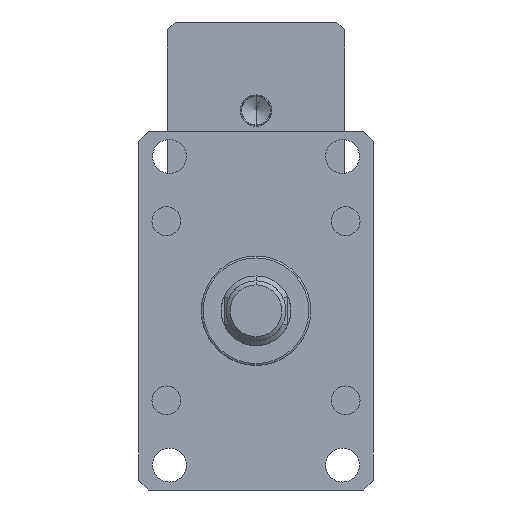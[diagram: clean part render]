
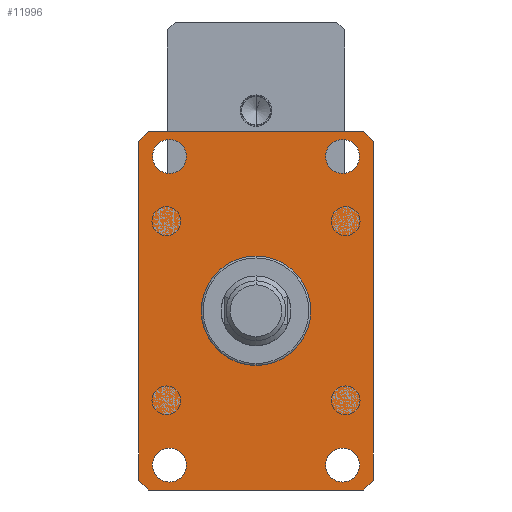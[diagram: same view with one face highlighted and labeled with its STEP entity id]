
A CAD part, front view. The second image highlights one B-rep face of the part: STEP entity #11996.
In plain terms, the highlighted planar face has unit normal (0, -1, 0).
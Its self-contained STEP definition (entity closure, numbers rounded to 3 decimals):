
#134 = VERTEX_POINT ( 'NONE', #11940 ) ;
#298 = VECTOR ( 'NONE', #7155, 1000. ) ;
#309 = LINE ( 'NONE', #2871, #4898 ) ;
#333 = AXIS2_PLACEMENT_3D ( 'NONE', #499, #7340, #1457 ) ;
#499 = CARTESIAN_POINT ( 'NONE',  ( 43.5, -55., -77.5 ) ) ;
#508 = CARTESIAN_POINT ( 'NONE',  ( 43.5, -55., 77.5 ) ) ;
#836 = CARTESIAN_POINT ( 'NONE',  ( -54., -55., -90. ) ) ;
#1052 = CARTESIAN_POINT ( 'NONE',  ( -43.5, -55., 77.5 ) ) ;
#1097 = EDGE_CURVE ( 'NONE', #11433, #2408, #11636, .T. ) ;
#1182 = EDGE_LOOP ( 'NONE', ( #10085, #3190, #5065, #8266, #5171, #10581, #5799, #5356 ) ) ;
#1183 = FACE_BOUND ( 'NONE', #4106, .T. ) ;
#1211 = VECTOR ( 'NONE', #2187, 1000. ) ;
#1297 = CARTESIAN_POINT ( 'NONE',  ( 54., -55., 90. ) ) ;
#1457 = DIRECTION ( 'NONE',  ( 0., 0., 1. ) ) ;
#1471 = DIRECTION ( 'NONE',  ( 0., 0., -1. ) ) ;
#1498 = CIRCLE ( 'NONE', #8177, 8.5 ) ;
#1558 = CARTESIAN_POINT ( 'NONE',  ( 54., -55., -90. ) ) ;
#1601 = CARTESIAN_POINT ( 'NONE',  ( 59., -55., -85. ) ) ;
#2023 = DIRECTION ( 'NONE',  ( 0., 0., -1. ) ) ;
#2047 = LINE ( 'NONE', #10399, #12232 ) ;
#2124 = EDGE_CURVE ( 'NONE', #2408, #11433, #6245, .T. ) ;
#2162 = DIRECTION ( 'NONE',  ( 0., 0., 1. ) ) ;
#2187 = DIRECTION ( 'NONE',  ( -0.707, 0., -0.707 ) ) ;
#2314 = AXIS2_PLACEMENT_3D ( 'NONE', #508, #7352, #1471 ) ;
#2408 = VERTEX_POINT ( 'NONE', #12335 ) ;
#2609 = LINE ( 'NONE', #9525, #4623 ) ;
#2731 = VERTEX_POINT ( 'NONE', #11845 ) ;
#2741 = DIRECTION ( 'NONE',  ( 0., 1., 0. ) ) ;
#2871 = CARTESIAN_POINT ( 'NONE',  ( -59., -55., -85. ) ) ;
#3001 = AXIS2_PLACEMENT_3D ( 'NONE', #1052, #7909, #2023 ) ;
#3046 = CARTESIAN_POINT ( 'NONE',  ( -43.5, -55., 69. ) ) ;
#3190 = ORIENTED_EDGE ( 'NONE', *, *, #5274, .T. ) ;
#3215 = LINE ( 'NONE', #7037, #1211 ) ;
#3494 = VERTEX_POINT ( 'NONE', #1601 ) ;
#3886 = DIRECTION ( 'NONE',  ( 0.707, 0., -0.707 ) ) ;
#4004 = ORIENTED_EDGE ( 'NONE', *, *, #2124, .F. ) ;
#4078 = CARTESIAN_POINT ( 'NONE',  ( 59., -55., 85. ) ) ;
#4106 = EDGE_LOOP ( 'NONE', ( #5444, #10193 ) ) ;
#4121 = VECTOR ( 'NONE', #9984, 1000. ) ;
#4123 = CIRCLE ( 'NONE', #7364, 8.5 ) ;
#4177 = DIRECTION ( 'NONE',  ( 0., 1., 0. ) ) ;
#4327 = CARTESIAN_POINT ( 'NONE',  ( -43.5, -55., 77.5 ) ) ;
#4436 = CARTESIAN_POINT ( 'NONE',  ( 43.5, -55., 77.5 ) ) ;
#4623 = VECTOR ( 'NONE', #11531, 1000. ) ;
#4741 = VECTOR ( 'NONE', #12712, 1000. ) ;
#4898 = VECTOR ( 'NONE', #3886, 1000. ) ;
#5065 = ORIENTED_EDGE ( 'NONE', *, *, #10468, .T. ) ;
#5165 = EDGE_LOOP ( 'NONE', ( #7102, #8887 ) ) ;
#5166 = FACE_BOUND ( 'NONE', #12626, .T. ) ;
#5171 = ORIENTED_EDGE ( 'NONE', *, *, #7867, .T. ) ;
#5195 = LINE ( 'NONE', #1297, #298 ) ;
#5274 = EDGE_CURVE ( 'NONE', #10282, #3494, #2047, .T. ) ;
#5294 = DIRECTION ( 'NONE',  ( 0., 0., -1. ) ) ;
#5308 = CARTESIAN_POINT ( 'NONE',  ( -43.5, -55., -77.5 ) ) ;
#5351 = LINE ( 'NONE', #8743, #4741 ) ;
#5356 = ORIENTED_EDGE ( 'NONE', *, *, #8773, .T. ) ;
#5403 = DIRECTION ( 'NONE',  ( 0., 0., -1. ) ) ;
#5444 = ORIENTED_EDGE ( 'NONE', *, *, #5912, .T. ) ;
#5468 = FACE_BOUND ( 'NONE', #5165, .T. ) ;
#5495 = CARTESIAN_POINT ( 'NONE',  ( -59., -55., 85. ) ) ;
#5541 = AXIS2_PLACEMENT_3D ( 'NONE', #4327, #11244, #5294 ) ;
#5799 = ORIENTED_EDGE ( 'NONE', *, *, #10029, .T. ) ;
#5912 = EDGE_CURVE ( 'NONE', #10202, #10453, #8033, .T. ) ;
#6004 = CARTESIAN_POINT ( 'NONE',  ( 43.5, -55., -86. ) ) ;
#6171 = AXIS2_PLACEMENT_3D ( 'NONE', #4436, #11341, #5403 ) ;
#6245 = CIRCLE ( 'NONE', #3001, 8.5 ) ;
#6302 = DIRECTION ( 'NONE',  ( 0., 0., 1. ) ) ;
#6321 = AXIS2_PLACEMENT_3D ( 'NONE', #5308, #12225, #6302 ) ;
#6412 = VERTEX_POINT ( 'NONE', #11624 ) ;
#6470 = DIRECTION ( 'NONE',  ( 0.707, 0., 0.707 ) ) ;
#6479 = CIRCLE ( 'NONE', #6321, 8.5 ) ;
#6635 = AXIS2_PLACEMENT_3D ( 'NONE', #12000, #8043, #2162 ) ;
#6709 = LINE ( 'NONE', #4078, #4121 ) ;
#6879 = CARTESIAN_POINT ( 'NONE',  ( -54., -55., -90. ) ) ;
#6993 = VERTEX_POINT ( 'NONE', #7937 ) ;
#7037 = CARTESIAN_POINT ( 'NONE',  ( -59., -55., 85. ) ) ;
#7102 = ORIENTED_EDGE ( 'NONE', *, *, #11268, .T. ) ;
#7137 = EDGE_CURVE ( 'NONE', #134, #9346, #6479, .T. ) ;
#7155 = DIRECTION ( 'NONE',  ( -0.707, 0., 0.707 ) ) ;
#7173 = CARTESIAN_POINT ( 'NONE',  ( -43.5, -55., -69. ) ) ;
#7340 = DIRECTION ( 'NONE',  ( 0., 1., 0. ) ) ;
#7352 = DIRECTION ( 'NONE',  ( 0., -1., 0. ) ) ;
#7364 = AXIS2_PLACEMENT_3D ( 'NONE', #8644, #2741, #9622 ) ;
#7377 = VERTEX_POINT ( 'NONE', #10819 ) ;
#7776 = FACE_OUTER_BOUND ( 'NONE', #1182, .T. ) ;
#7867 = EDGE_CURVE ( 'NONE', #2731, #8639, #2609, .T. ) ;
#7909 = DIRECTION ( 'NONE',  ( 0., -1., 0. ) ) ;
#7937 = CARTESIAN_POINT ( 'NONE',  ( 59., -55., 85. ) ) ;
#7985 = CARTESIAN_POINT ( 'NONE',  ( -54., -55., 90. ) ) ;
#8033 = CIRCLE ( 'NONE', #333, 8.5 ) ;
#8043 = DIRECTION ( 'NONE',  ( 0., 1., 0. ) ) ;
#8175 = CARTESIAN_POINT ( 'NONE',  ( 43.5, -55., -69. ) ) ;
#8177 = AXIS2_PLACEMENT_3D ( 'NONE', #10072, #4177, #11079 ) ;
#8266 = ORIENTED_EDGE ( 'NONE', *, *, #10199, .T. ) ;
#8604 = VERTEX_POINT ( 'NONE', #9896 ) ;
#8639 = VERTEX_POINT ( 'NONE', #7985 ) ;
#8640 = EDGE_CURVE ( 'NONE', #7377, #6412, #11714, .T. ) ;
#8644 = CARTESIAN_POINT ( 'NONE',  ( -43.5, -55., -77.5 ) ) ;
#8703 = VERTEX_POINT ( 'NONE', #5495 ) ;
#8743 = CARTESIAN_POINT ( 'NONE',  ( -59., -55., 85. ) ) ;
#8773 = EDGE_CURVE ( 'NONE', #8604, #10002, #309, .T. ) ;
#8887 = ORIENTED_EDGE ( 'NONE', *, *, #7137, .T. ) ;
#9006 = PLANE ( 'NONE',  #6635 ) ;
#9346 = VERTEX_POINT ( 'NONE', #7173 ) ;
#9525 = CARTESIAN_POINT ( 'NONE',  ( -54., -55., 90. ) ) ;
#9622 = DIRECTION ( 'NONE',  ( 0., 0., 1. ) ) ;
#9770 = EDGE_CURVE ( 'NONE', #6412, #7377, #10482, .T. ) ;
#9886 = DIRECTION ( 'NONE',  ( 1., 0., 0. ) ) ;
#9896 = CARTESIAN_POINT ( 'NONE',  ( -59., -55., -85. ) ) ;
#9984 = DIRECTION ( 'NONE',  ( 0., 0., 1. ) ) ;
#10002 = VERTEX_POINT ( 'NONE', #836 ) ;
#10029 = EDGE_CURVE ( 'NONE', #8703, #8604, #5351, .T. ) ;
#10072 = CARTESIAN_POINT ( 'NONE',  ( 43.5, -55., -77.5 ) ) ;
#10085 = ORIENTED_EDGE ( 'NONE', *, *, #11908, .T. ) ;
#10158 = EDGE_CURVE ( 'NONE', #8639, #8703, #3215, .T. ) ;
#10193 = ORIENTED_EDGE ( 'NONE', *, *, #10518, .T. ) ;
#10196 = ORIENTED_EDGE ( 'NONE', *, *, #9770, .F. ) ;
#10199 = EDGE_CURVE ( 'NONE', #6993, #2731, #5195, .T. ) ;
#10202 = VERTEX_POINT ( 'NONE', #8175 ) ;
#10282 = VERTEX_POINT ( 'NONE', #1558 ) ;
#10399 = CARTESIAN_POINT ( 'NONE',  ( 54., -55., -90. ) ) ;
#10427 = FACE_BOUND ( 'NONE', #12070, .T. ) ;
#10453 = VERTEX_POINT ( 'NONE', #6004 ) ;
#10468 = EDGE_CURVE ( 'NONE', #3494, #6993, #6709, .T. ) ;
#10482 = CIRCLE ( 'NONE', #2314, 8.5 ) ;
#10518 = EDGE_CURVE ( 'NONE', #10453, #10202, #1498, .T. ) ;
#10581 = ORIENTED_EDGE ( 'NONE', *, *, #10158, .T. ) ;
#10819 = CARTESIAN_POINT ( 'NONE',  ( 43.5, -55., 69. ) ) ;
#11079 = DIRECTION ( 'NONE',  ( 0., 0., 1. ) ) ;
#11142 = ORIENTED_EDGE ( 'NONE', *, *, #1097, .F. ) ;
#11244 = DIRECTION ( 'NONE',  ( 0., -1., 0. ) ) ;
#11268 = EDGE_CURVE ( 'NONE', #9346, #134, #4123, .T. ) ;
#11341 = DIRECTION ( 'NONE',  ( 0., -1., 0. ) ) ;
#11366 = VECTOR ( 'NONE', #9886, 1000. ) ;
#11433 = VERTEX_POINT ( 'NONE', #3046 ) ;
#11531 = DIRECTION ( 'NONE',  ( -1., 0., 0. ) ) ;
#11624 = CARTESIAN_POINT ( 'NONE',  ( 43.5, -55., 86. ) ) ;
#11636 = CIRCLE ( 'NONE', #5541, 8.5 ) ;
#11671 = LINE ( 'NONE', #6879, #11366 ) ;
#11714 = CIRCLE ( 'NONE', #6171, 8.5 ) ;
#11845 = CARTESIAN_POINT ( 'NONE',  ( 54., -55., 90. ) ) ;
#11908 = EDGE_CURVE ( 'NONE', #10002, #10282, #11671, .T. ) ;
#11940 = CARTESIAN_POINT ( 'NONE',  ( -43.5, -55., -86. ) ) ;
#11996 = ADVANCED_FACE ( 'NONE', ( #10427, #1183, #5468, #7776, #5166 ), #9006, .F. ) ;
#12000 = CARTESIAN_POINT ( 'NONE',  ( 59., -55., -90. ) ) ;
#12070 = EDGE_LOOP ( 'NONE', ( #4004, #11142 ) ) ;
#12102 = ORIENTED_EDGE ( 'NONE', *, *, #8640, .F. ) ;
#12225 = DIRECTION ( 'NONE',  ( 0., 1., 0. ) ) ;
#12232 = VECTOR ( 'NONE', #6470, 1000. ) ;
#12335 = CARTESIAN_POINT ( 'NONE',  ( -43.5, -55., 86. ) ) ;
#12626 = EDGE_LOOP ( 'NONE', ( #10196, #12102 ) ) ;
#12712 = DIRECTION ( 'NONE',  ( 0., 0., -1. ) ) ;
